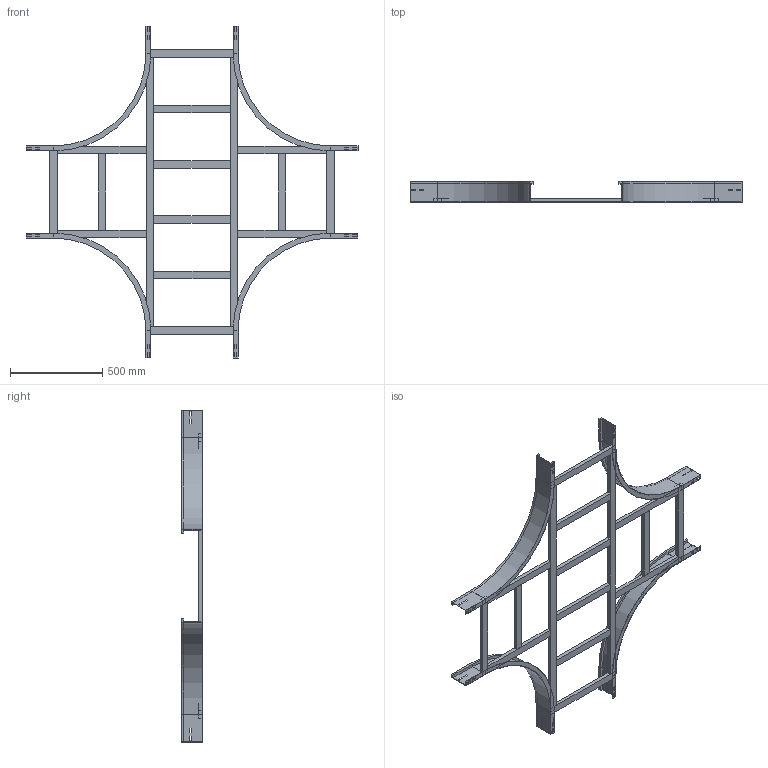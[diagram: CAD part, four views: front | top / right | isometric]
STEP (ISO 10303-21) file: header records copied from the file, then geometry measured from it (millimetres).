
FILE_DESCRIPTION (( 'STEP AP214' ), '1' );
FILE_NAME ('17B5J500.step', '2025-02-21T15:56:12', ( '' ), ( '' ), 'SwSTEP 2.0', 'SolidWorks 2023', '' );
FILE_SCHEMA (( 'AUTOMOTIVE_DESIGN' ));
Length unit declared in the file: millimetre
Products named in the file (7): TRAVERSINO_500; TRAVERSINO_COPPIA_500; LONGH.INTERNO 90°_H112.5_R500; TRAVERSINO_LONG._R500+500; TRAVERSINO_VERT_R500; TRAVERSINO_INTERMEDIO_R500+500; 17B5J500
Assembly tree (20 placements, depth 2):
  17B5J500
    LONGH.INTERNO 90°_H112.5_R500  x4
    TRAVERSINO_500  x4
    TRAVERSINO_LONG._R500+500  x2
    TRAVERSINO_INTERMEDIO_R500+500  x4
    TRAVERSINO_VERT_R500  x4
    TRAVERSINO_COPPIA_500  x2
Bounding box: 1800 x 112.5 x 1800 mm (x, y, z)
Volume: 9584900.5 mm3; surface area: 2510992.6 mm2
Topology: 20 solids, 20 shells, 328 faces, 800 edges, 512 vertices
Faces by surface type: plane 312, cylinder 16
Entity records: 2860 total; most frequent: CARTESIAN_POINT 459, DIRECTION 442, ORIENTED_EDGE 424, EDGE_CURVE 212, LINE 204, VECTOR 204, VERTEX_POINT 136, AXIS2_PLACEMENT_3D 119
